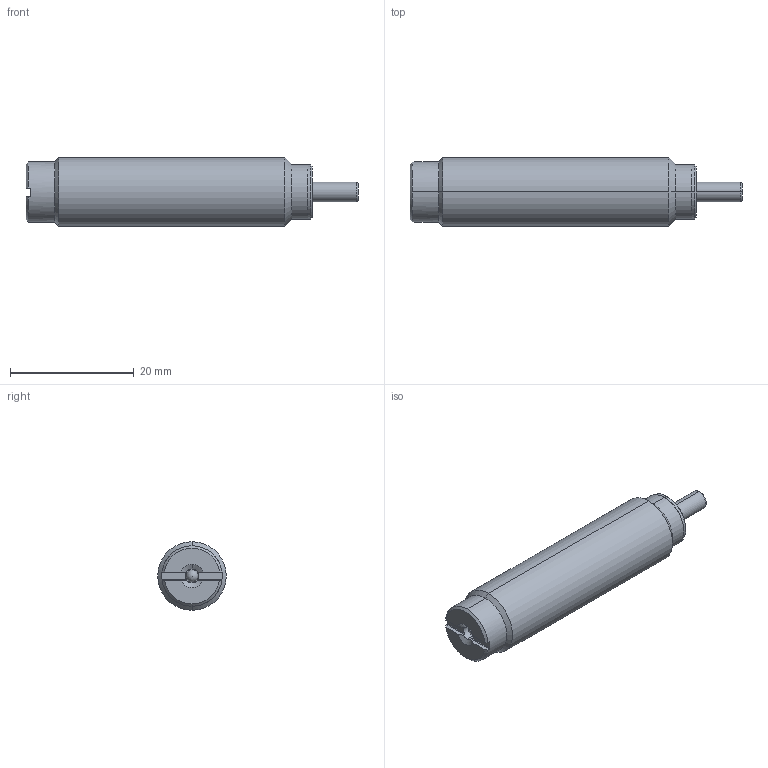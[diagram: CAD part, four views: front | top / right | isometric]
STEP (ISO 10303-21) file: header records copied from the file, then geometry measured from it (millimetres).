
FILE_DESCRIPTION (( 'STEP AP214' ), '1' );
FILE_NAME ('PMX 10.STEP', '2010-08-04T18:10:17', ( ' ' ), ( '' ), 'SwSTEP 2.0', 'SolidWorks 2006233', '' );
FILE_SCHEMA (( 'AUTOMOTIVE_DESIGN' ));
Length unit declared in the file: inch
Products named in the file (1): PMX 10
Bounding box: 53.72 x 11.08 x 11.08 mm (x, y, z)
Surface area: 2080.8 mm2 (no closed solid volume)
Topology: 0 solids, 5 shells, 48 faces, 123 edges, 79 vertices
Faces by surface type: cylinder 20, cone 12, plane 12, torus 2, sphere 2
Entity records: 2144 total; most frequent: CARTESIAN_POINT 357, DIRECTION 258, ORIENTED_EDGE 222, EDGE_CURVE 118, AXIS2_PLACEMENT_3D 107, VERTEX_POINT 76, CIRCLE 58, EDGE_LOOP 51
